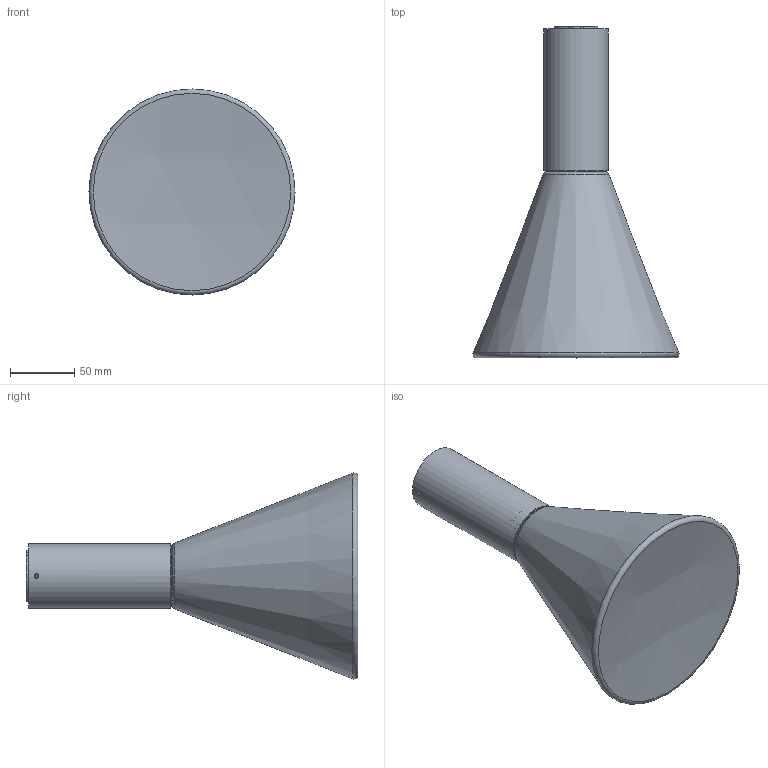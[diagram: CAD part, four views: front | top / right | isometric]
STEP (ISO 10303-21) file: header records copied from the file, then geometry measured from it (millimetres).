
FILE_DESCRIPTION(/* description */ (''),/* implementation_level */ '2;1');
FILE_NAME(/* name */ 'S:\UFFICIO TECNICO 2019\PRODOTTI ROTALIANA\SOUVLAKI\CONFIGURATORE\FILES X CONFIGURATORE\ipt INVENTOR\1SVH2002.stp',/* time_stamp */ '2024-03-13T17:56:49+01:00',/* author */ ('mtesta'),/* organization */ (''),/* preprocessor_version */ 'ST-DEVELOPER v18.1',/* originating_system */ 'Autodesk Inventor 2021',/* authorisation */ '');
FILE_SCHEMA (('AUTOMOTIVE_DESIGN { 1 0 10303 214 3 1 1 }'));
Length unit declared in the file: millimetre
Products named in the file (1): 1SVH2002
Bounding box: 160 x 257.65 x 160 mm (x, y, z)
Volume: 195410.3 mm3; surface area: 196094.9 mm2
Topology: 5 solids, 5 shells, 461 faces, 1101 edges, 683 vertices
Faces by surface type: plane 114, torus 110, cylinder 100, bspline 71, cone 62, sphere 4
Full cylindrical faces by diameter (mm): 1.567 x3, 2.459 x2, 3 x27, 3.2 x2, 3.242 x1, 3.25 x2, 4 x4, 6.5 x2, 38.4 x1, 42 x2, 42.5 x1, 45 x1, 45.7 x1, 46.5 x1, 47.8 x1, 48 x2, 48.2 x2, 50 x1
Entity records: 16322 total; most frequent: CARTESIAN_POINT 5089, DIRECTION 2327, ORIENTED_EDGE 2182, EDGE_CURVE 1091, AXIS2_PLACEMENT_3D 1022, VERTEX_POINT 685, CIRCLE 631, EDGE_LOOP 540
